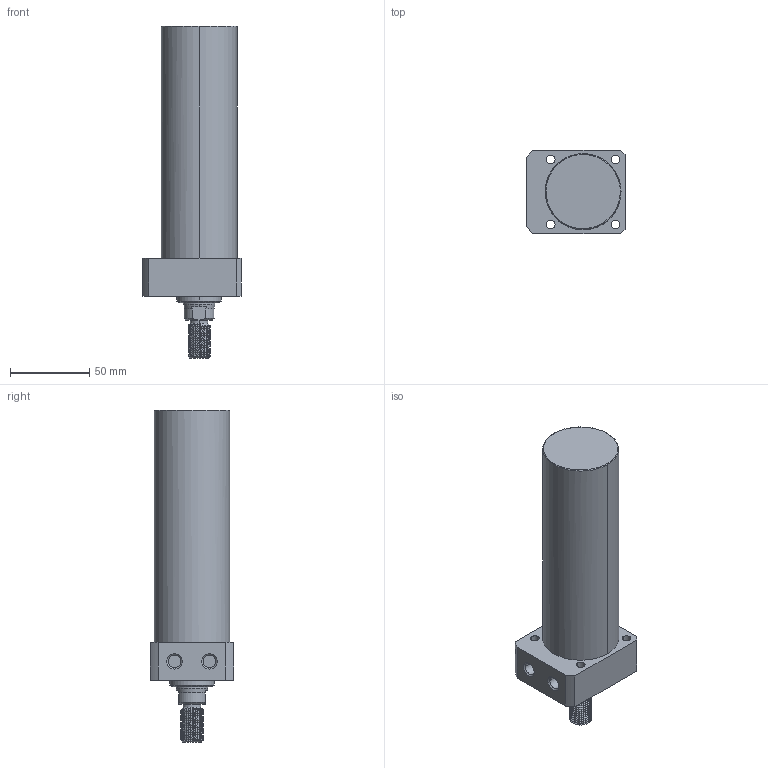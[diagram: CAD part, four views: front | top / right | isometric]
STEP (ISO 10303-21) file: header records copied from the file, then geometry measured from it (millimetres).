
FILE_DESCRIPTION((' '),'2;1');
FILE_NAME( 'TLLR-048CT-120.STEP.stp', '2025-10-24T16:34:37', (' '), ('--- Datakit www.datakit.com---'), ' Datakit CrossCadWare V2024.1 Dec 21 2023', 'Mastercam 2025', ' ');
FILE_SCHEMA(('AUTOMOTIVE_DESIGN { 1 0 10303 214 1 1 1 1 }'));
Length unit declared in the file: millimetre
Products named in the file (1): TLLR-048CT-120
Bounding box: 62 x 53 x 210 mm (x, y, z)
Volume: 349088.7 mm3; surface area: 38701.5 mm2
Topology: 1 solids, 1 shells, 96 faces, 330 edges, 244 vertices
Faces by surface type: cylinder 56, plane 20, cone 16, torus 2, bspline 2
Entity records: 9742 total; most frequent: CARTESIAN_POINT 6838, ORIENTED_EDGE 660, DIRECTION 501, EDGE_CURVE 330, VERTEX_POINT 244, AXIS2_PLACEMENT_3D 205, B_SPLINE_CURVE_WITH_KNOTS 129, EDGE_LOOP 112
